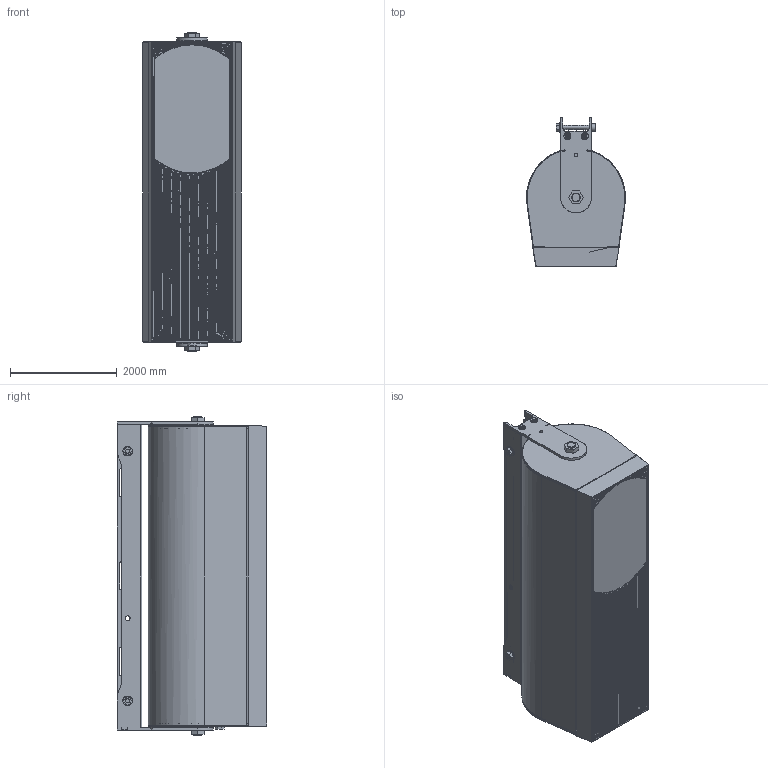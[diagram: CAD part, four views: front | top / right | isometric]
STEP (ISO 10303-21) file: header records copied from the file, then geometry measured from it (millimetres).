
FILE_DESCRIPTION ((), '1');
FILE_NAME ('z:\Volumes\DATEN_TRANSIT\Philipp\HIT_7000F_3D2.stp', '2016-04-01T15:14:52', ('Unknown'), ('Unknown'), 'HarmonyWare STEP v1.4.9', 'HarmonyWare Translators', '');
FILE_SCHEMA (('CONFIG_CONTROL_DESIGN'));
Length unit declared in the file: centimetre
Products named in the file (5397): NONE
Bounding box: 1856.98 x 2805.66 x 5987 mm (x, y, z)
Surface area: 160407618.9 mm2 (no closed solid volume)
Topology: 0 solids, 5398 shells, 5398 faces, 20474 edges, 20380 vertices
Faces by surface type: bspline 5398
Entity records: 766599 total; most frequent: CARTESIAN_POINT 118684, PERSON 43176, ORGANIZATION 43176, PERSON_AND_ORGANIZATION 43176, PERSON_AND_ORGANIZATION_ROLE 26985, CC_DESIGN_PERSON_AND_ORGANIZATION_ASSIGNMENT 26985, CALENDAR_DATE 26985, COORDINATED_UNIVERSAL_TIME_OFFSET 26985
